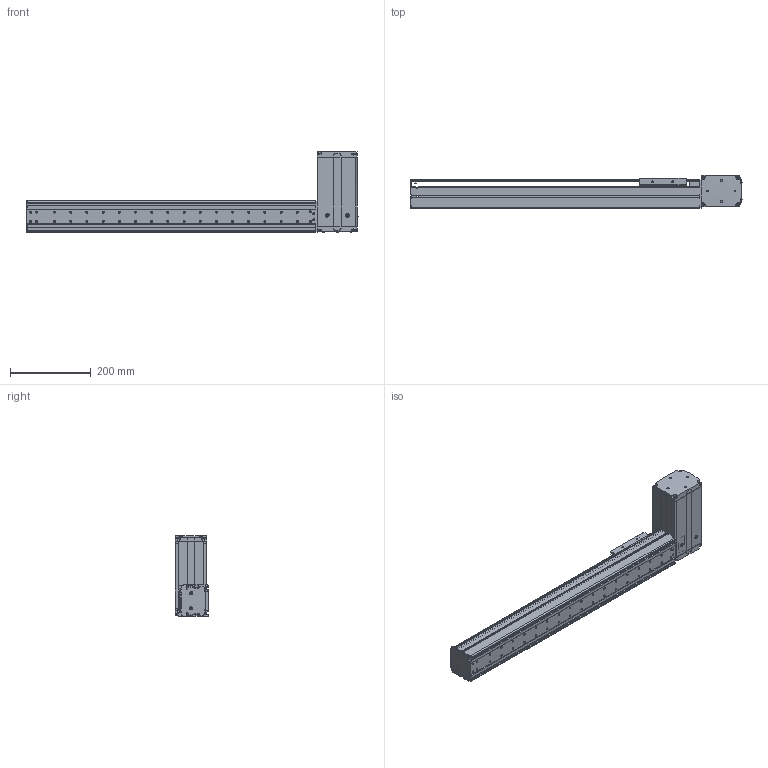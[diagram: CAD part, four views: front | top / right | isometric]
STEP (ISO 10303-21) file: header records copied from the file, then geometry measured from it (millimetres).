
FILE_DESCRIPTION((''),'2;1');
FILE_NAME('BE10_-BR-M_N-50_IGS_PRT','2017-06-18T',(' '),(''),'PRO/ENGINEER BY PARAMETRIC TECHNOLOGY CORPORATION, 2015030','PRO/ENGINEER BY PARAMETRIC TECHNOLOGY CORPORATION, 2015030','');
FILE_SCHEMA(('CONFIG_CONTROL_DESIGN'));
Products named in the file (1): BE10_-BR-M_N-50_IGS_PRT
Bounding box: 820.8 x 82.5 x 200.22 mm (x, y, z)
Volume: 1131076.5 mm3; surface area: 798020.5 mm2
Topology: 3 solids, 126 shells, 2026 faces, 5523 edges, 3625 vertices
Faces by surface type: plane 981, cylinder 874, cone 111, sphere 30, torus 27, bspline 3
Entity records: 65671 total; most frequent: CARTESIAN_POINT 13376, DIRECTION 11090, ORIENTED_EDGE 10506, EDGE_CURVE 5461, AXIS2_PLACEMENT_3D 3949, VERTEX_POINT 3625, VECTOR 3192, LINE 3192
